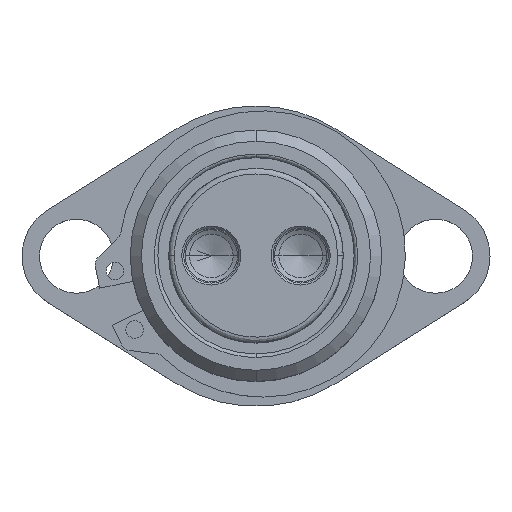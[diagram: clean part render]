
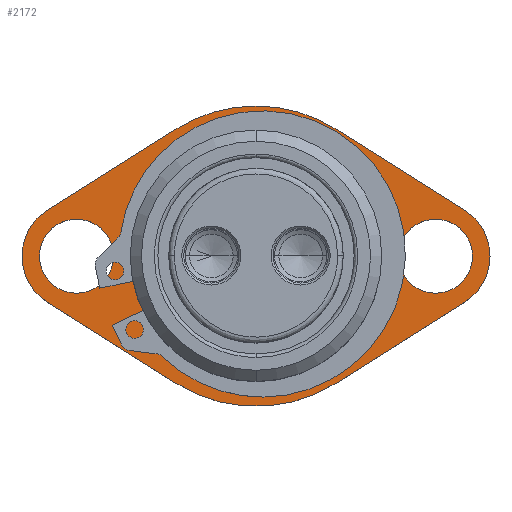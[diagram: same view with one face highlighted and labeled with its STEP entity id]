
A CAD part, top view. The second image highlights one B-rep face of the part: STEP entity #2172.
In plain terms, the highlighted planar face has unit normal (0, 0, 1) as drawn and (0, 1, 0) by its records, which use the part's own axes.
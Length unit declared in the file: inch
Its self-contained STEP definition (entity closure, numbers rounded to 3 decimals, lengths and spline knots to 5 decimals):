
#14 = VERTEX_POINT ( 'NONE', #1700 ) ;
#40 = FACE_OUTER_BOUND ( 'NONE', #2813, .T. ) ;
#77 = CIRCLE ( 'NONE', #3568, 0.39 ) ;
#113 = VERTEX_POINT ( 'NONE', #3915 ) ;
#204 = DIRECTION ( 'NONE',  ( 0., -1., 0. ) ) ;
#220 = FACE_BOUND ( 'NONE', #1342, .T. ) ;
#222 = CARTESIAN_POINT ( 'NONE',  ( 1.285, 0.25, 0. ) ) ;
#236 = EDGE_CURVE ( 'NONE', #980, #3583, #77, .T. ) ;
#248 = CARTESIAN_POINT ( 'NONE',  ( -0.57305, 0.25, -0.90952 ) ) ;
#310 = DIRECTION ( 'NONE',  ( 0., 0., -1. ) ) ;
#497 = VERTEX_POINT ( 'NONE', #1206 ) ;
#499 = EDGE_CURVE ( 'NONE', #4475, #497, #4510, .T. ) ;
#512 = VERTEX_POINT ( 'NONE', #3441 ) ;
#518 = DIRECTION ( 'NONE',  ( 0., 0., 1. ) ) ;
#597 = DIRECTION ( 'NONE',  ( 0., 0., -1. ) ) ;
#614 = ORIENTED_EDGE ( 'NONE', *, *, #3327, .T. ) ;
#632 = AXIS2_PLACEMENT_3D ( 'NONE', #4333, #4373, #2217 ) ;
#641 = ORIENTED_EDGE ( 'NONE', *, *, #2128, .T. ) ;
#666 = VERTEX_POINT ( 'NONE', #3131 ) ;
#679 = AXIS2_PLACEMENT_3D ( 'NONE', #3405, #1864, #518 ) ;
#831 = VECTOR ( 'NONE', #1912, 39.37008 ) ;
#876 = VERTEX_POINT ( 'NONE', #2837 ) ;
#885 = CARTESIAN_POINT ( 'NONE',  ( -1.285, 0.25, 0. ) ) ;
#893 = EDGE_CURVE ( 'NONE', #512, #1280, #1918, .T. ) ;
#917 = VERTEX_POINT ( 'NONE', #248 ) ;
#940 = DIRECTION ( 'NONE',  ( 0., 0., -1. ) ) ;
#980 = VERTEX_POINT ( 'NONE', #3554 ) ;
#998 = VERTEX_POINT ( 'NONE', #2444 ) ;
#1045 = EDGE_CURVE ( 'NONE', #1280, #512, #2622, .T. ) ;
#1053 = DIRECTION ( 'NONE',  ( 0., -1., 0. ) ) ;
#1184 = EDGE_CURVE ( 'NONE', #1358, #666, #3342, .T. ) ;
#1206 = CARTESIAN_POINT ( 'NONE',  ( 0.57305, 0.25, -0.90952 ) ) ;
#1228 = EDGE_CURVE ( 'NONE', #2468, #1622, #2445, .T. ) ;
#1238 = CARTESIAN_POINT ( 'NONE',  ( 0.57305, 0.25, -0.90952 ) ) ;
#1250 = LINE ( 'NONE', #4605, #3945 ) ;
#1280 = VERTEX_POINT ( 'NONE', #2381 ) ;
#1342 = EDGE_LOOP ( 'NONE', ( #2721, #3984 ) ) ;
#1358 = VERTEX_POINT ( 'NONE', #4279 ) ;
#1370 = EDGE_CURVE ( 'NONE', #876, #113, #2440, .T. ) ;
#1408 = FACE_BOUND ( 'NONE', #3740, .T. ) ;
#1410 = DIRECTION ( 'NONE',  ( 0., 0., -1. ) ) ;
#1423 = ORIENTED_EDGE ( 'NONE', *, *, #236, .F. ) ;
#1427 = CARTESIAN_POINT ( 'NONE',  ( 1.285, 0.25, 0. ) ) ;
#1441 = ORIENTED_EDGE ( 'NONE', *, *, #3670, .F. ) ;
#1446 = EDGE_LOOP ( 'NONE', ( #4598, #614 ) ) ;
#1482 = EDGE_CURVE ( 'NONE', #998, #497, #3772, .T. ) ;
#1522 = ORIENTED_EDGE ( 'NONE', *, *, #499, .F. ) ;
#1614 = CARTESIAN_POINT ( 'NONE',  ( 0., 0.25, 0. ) ) ;
#1622 = VERTEX_POINT ( 'NONE', #4135 ) ;
#1645 = AXIS2_PLACEMENT_3D ( 'NONE', #1772, #4583, #2819 ) ;
#1700 = CARTESIAN_POINT ( 'NONE',  ( 1.4929, 0.25, 0.32997 ) ) ;
#1753 = CIRCLE ( 'NONE', #632, 1.075 ) ;
#1772 = CARTESIAN_POINT ( 'NONE',  ( 0., 0.25, 0. ) ) ;
#1803 = DIRECTION ( 'NONE',  ( 0.846, 0., -0.533 ) ) ;
#1855 = DIRECTION ( 'NONE',  ( 0., -1., 0. ) ) ;
#1864 = DIRECTION ( 'NONE',  ( 0., 1., 0. ) ) ;
#1912 = DIRECTION ( 'NONE',  ( -0.846, 0., -0.533 ) ) ;
#1918 = CIRCLE ( 'NONE', #2097, 0.265 ) ;
#1923 = AXIS2_PLACEMENT_3D ( 'NONE', #885, #4140, #4540 ) ;
#1926 = CARTESIAN_POINT ( 'NONE',  ( -1.4929, 0.25, -0.32997 ) ) ;
#2086 = DIRECTION ( 'NONE',  ( -0.846, 0., 0.533 ) ) ;
#2097 = AXIS2_PLACEMENT_3D ( 'NONE', #4575, #3889, #597 ) ;
#2128 = EDGE_CURVE ( 'NONE', #1358, #14, #2834, .T. ) ;
#2172 = ADVANCED_FACE ( 'NONE', ( #4486, #40, #1408, #220 ), #4082, .T. ) ;
#2217 = DIRECTION ( 'NONE',  ( 0., 0., -1. ) ) ;
#2239 = CARTESIAN_POINT ( 'NONE',  ( 0., 0.25, 0. ) ) ;
#2381 = CARTESIAN_POINT ( 'NONE',  ( 1.285, 0.25, -0.265 ) ) ;
#2385 = CARTESIAN_POINT ( 'NONE',  ( -1.285, 0.25, -0.265 ) ) ;
#2411 = ORIENTED_EDGE ( 'NONE', *, *, #1045, .T. ) ;
#2427 = DIRECTION ( 'NONE',  ( 0., -1., 0. ) ) ;
#2440 = CIRCLE ( 'NONE', #3560, 0.9 ) ;
#2444 = CARTESIAN_POINT ( 'NONE',  ( 1.4929, 0.25, -0.32997 ) ) ;
#2445 = CIRCLE ( 'NONE', #1923, 0.265 ) ;
#2461 = CARTESIAN_POINT ( 'NONE',  ( -1.285, 0.25, 0. ) ) ;
#2468 = VERTEX_POINT ( 'NONE', #2385 ) ;
#2471 = CARTESIAN_POINT ( 'NONE',  ( 0., 0.25, -1.075 ) ) ;
#2550 = VECTOR ( 'NONE', #1803, 39.37008 ) ;
#2557 = AXIS2_PLACEMENT_3D ( 'NONE', #2868, #1053, #2885 ) ;
#2586 = DIRECTION ( 'NONE',  ( 0., -1., 0. ) ) ;
#2622 = CIRCLE ( 'NONE', #4325, 0.265 ) ;
#2670 = ORIENTED_EDGE ( 'NONE', *, *, #1184, .F. ) ;
#2672 = AXIS2_PLACEMENT_3D ( 'NONE', #3082, #204, #940 ) ;
#2699 = ORIENTED_EDGE ( 'NONE', *, *, #4254, .F. ) ;
#2721 = ORIENTED_EDGE ( 'NONE', *, *, #3321, .T. ) ;
#2813 = EDGE_LOOP ( 'NONE', ( #1441, #3954, #1423, #3865, #2670, #641, #2699, #4460, #1522 ) ) ;
#2819 = DIRECTION ( 'NONE',  ( 0., 0., -1. ) ) ;
#2834 = LINE ( 'NONE', #3219, #2550 ) ;
#2837 = CARTESIAN_POINT ( 'NONE',  ( 0., 0.25, 0.9 ) ) ;
#2868 = CARTESIAN_POINT ( 'NONE',  ( -1.285, 0.25, 0. ) ) ;
#2875 = CIRCLE ( 'NONE', #3393, 0.39 ) ;
#2885 = DIRECTION ( 'NONE',  ( 0., 0., -1. ) ) ;
#2931 = CIRCLE ( 'NONE', #2557, 0.265 ) ;
#3035 = ORIENTED_EDGE ( 'NONE', *, *, #893, .T. ) ;
#3082 = CARTESIAN_POINT ( 'NONE',  ( 0., 0.25, 0. ) ) ;
#3131 = CARTESIAN_POINT ( 'NONE',  ( -0.57305, 0.25, 0.90952 ) ) ;
#3184 = DIRECTION ( 'NONE',  ( 0., -1., 0. ) ) ;
#3207 = DIRECTION ( 'NONE',  ( 0.846, 0., 0.533 ) ) ;
#3219 = CARTESIAN_POINT ( 'NONE',  ( 0.57305, 0.25, 0.90952 ) ) ;
#3321 = EDGE_CURVE ( 'NONE', #113, #876, #4147, .T. ) ;
#3327 = EDGE_CURVE ( 'NONE', #1622, #2468, #2931, .T. ) ;
#3342 = CIRCLE ( 'NONE', #2672, 1.075 ) ;
#3393 = AXIS2_PLACEMENT_3D ( 'NONE', #222, #2427, #4205 ) ;
#3405 = CARTESIAN_POINT ( 'NONE',  ( -1.285, 0.25, 0. ) ) ;
#3441 = CARTESIAN_POINT ( 'NONE',  ( 1.285, 0.25, 0.265 ) ) ;
#3554 = CARTESIAN_POINT ( 'NONE',  ( -1.4929, 0.25, 0.32997 ) ) ;
#3560 = AXIS2_PLACEMENT_3D ( 'NONE', #2239, #1855, #4358 ) ;
#3563 = CARTESIAN_POINT ( 'NONE',  ( -1.4929, 0.25, -0.32997 ) ) ;
#3568 = AXIS2_PLACEMENT_3D ( 'NONE', #2461, #3184, #310 ) ;
#3583 = VERTEX_POINT ( 'NONE', #1926 ) ;
#3670 = EDGE_CURVE ( 'NONE', #917, #4475, #1753, .T. ) ;
#3740 = EDGE_LOOP ( 'NONE', ( #2411, #3035 ) ) ;
#3772 = LINE ( 'NONE', #1238, #831 ) ;
#3837 = VECTOR ( 'NONE', #2086, 39.37008 ) ;
#3865 = ORIENTED_EDGE ( 'NONE', *, *, #4627, .T. ) ;
#3889 = DIRECTION ( 'NONE',  ( 0., -1., 0. ) ) ;
#3915 = CARTESIAN_POINT ( 'NONE',  ( 0., 0.25, -0.9 ) ) ;
#3945 = VECTOR ( 'NONE', #3207, 39.37008 ) ;
#3954 = ORIENTED_EDGE ( 'NONE', *, *, #4608, .T. ) ;
#3984 = ORIENTED_EDGE ( 'NONE', *, *, #1370, .T. ) ;
#4082 = PLANE ( 'NONE',  #679 ) ;
#4106 = DIRECTION ( 'NONE',  ( 0., -1., 0. ) ) ;
#4124 = DIRECTION ( 'NONE',  ( 0., 0., -1. ) ) ;
#4135 = CARTESIAN_POINT ( 'NONE',  ( -1.285, 0.25, 0.265 ) ) ;
#4140 = DIRECTION ( 'NONE',  ( 0., -1., 0. ) ) ;
#4147 = CIRCLE ( 'NONE', #1645, 0.9 ) ;
#4164 = LINE ( 'NONE', #3563, #3837 ) ;
#4205 = DIRECTION ( 'NONE',  ( 0., 0., -1. ) ) ;
#4244 = AXIS2_PLACEMENT_3D ( 'NONE', #1614, #4106, #4124 ) ;
#4254 = EDGE_CURVE ( 'NONE', #998, #14, #2875, .T. ) ;
#4279 = CARTESIAN_POINT ( 'NONE',  ( 0.57305, 0.25, 0.90952 ) ) ;
#4325 = AXIS2_PLACEMENT_3D ( 'NONE', #1427, #2586, #1410 ) ;
#4333 = CARTESIAN_POINT ( 'NONE',  ( 0., 0.25, 0. ) ) ;
#4358 = DIRECTION ( 'NONE',  ( 0., 0., -1. ) ) ;
#4373 = DIRECTION ( 'NONE',  ( 0., -1., 0. ) ) ;
#4460 = ORIENTED_EDGE ( 'NONE', *, *, #1482, .T. ) ;
#4475 = VERTEX_POINT ( 'NONE', #2471 ) ;
#4486 = FACE_BOUND ( 'NONE', #1446, .T. ) ;
#4510 = CIRCLE ( 'NONE', #4244, 1.075 ) ;
#4540 = DIRECTION ( 'NONE',  ( 0., 0., -1. ) ) ;
#4575 = CARTESIAN_POINT ( 'NONE',  ( 1.285, 0.25, 0. ) ) ;
#4583 = DIRECTION ( 'NONE',  ( 0., -1., 0. ) ) ;
#4598 = ORIENTED_EDGE ( 'NONE', *, *, #1228, .T. ) ;
#4605 = CARTESIAN_POINT ( 'NONE',  ( -1.4929, 0.25, 0.32997 ) ) ;
#4608 = EDGE_CURVE ( 'NONE', #917, #3583, #4164, .T. ) ;
#4627 = EDGE_CURVE ( 'NONE', #980, #666, #1250, .T. ) ;
